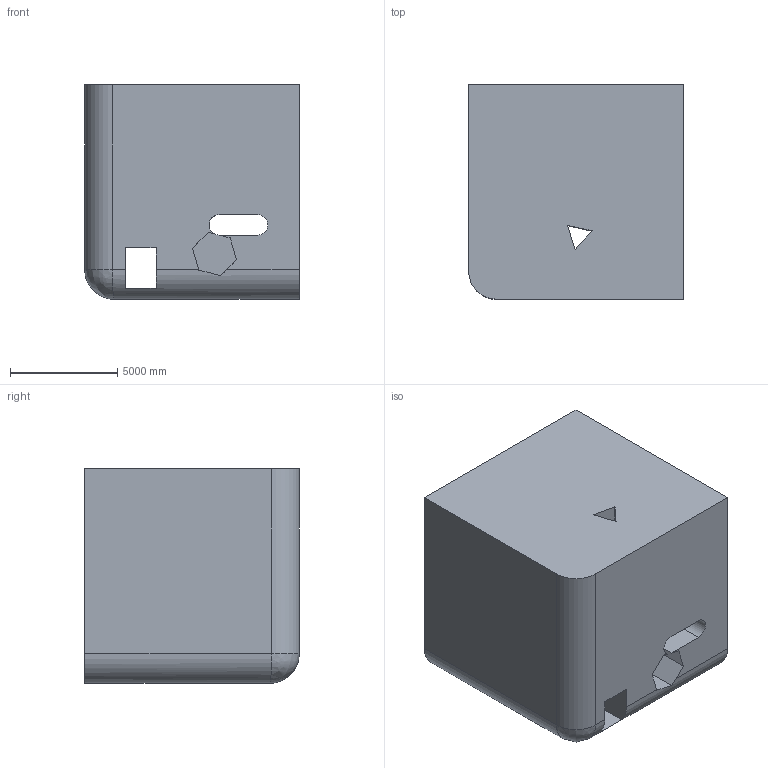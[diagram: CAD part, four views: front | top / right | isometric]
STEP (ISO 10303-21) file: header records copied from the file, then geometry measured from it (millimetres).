
FILE_DESCRIPTION (( 'STEP AP203' ), '1' );
FILE_NAME ('734.STEP', '2022-07-29T12:50:11', ( 'user' ), ( '' ), 'SwSTEP 2.0', 'SolidWorks 2021', '' );
FILE_SCHEMA (( 'CONFIG_CONTROL_DESIGN' ));
Length unit declared in the file: centimetre
Products named in the file (1): 734
Bounding box: 10000 x 10000 x 10000 mm (x, y, z)
Volume: 906153310500.4 mm3; surface area: 790276571.6 mm2
Topology: 1 solids, 1 shells, 34 faces, 102 edges, 66 vertices
Faces by surface type: plane 28, cylinder 5, bspline 1
Entity records: 1434 total; most frequent: CARTESIAN_POINT 438, ORIENTED_EDGE 202, DIRECTION 175, EDGE_CURVE 101, VECTOR 85, LINE 85, VERTEX_POINT 66, AXIS2_PLACEMENT_3D 45
